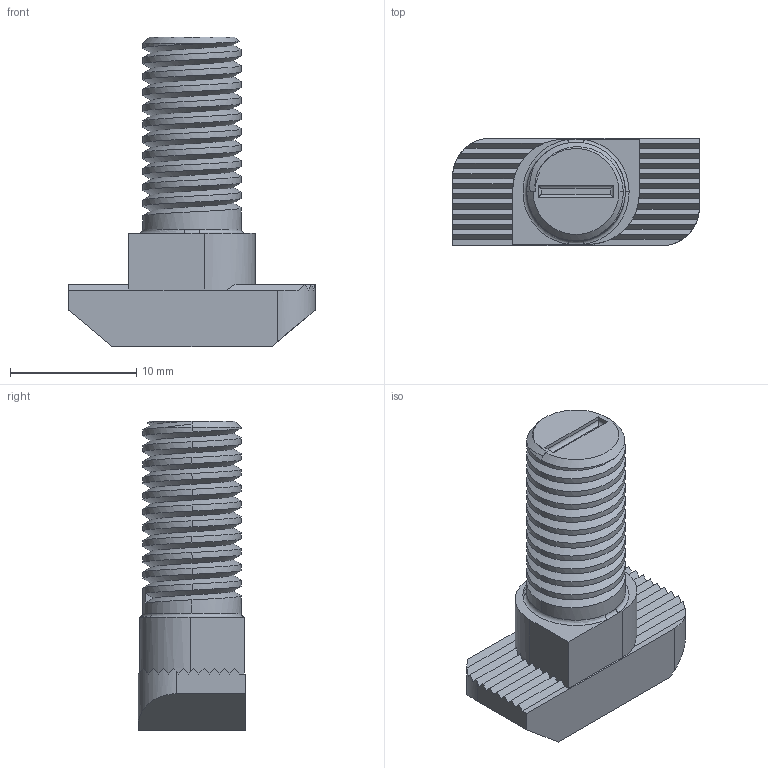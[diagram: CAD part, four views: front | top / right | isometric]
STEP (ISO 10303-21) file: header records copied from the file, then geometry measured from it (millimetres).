
FILE_DESCRIPTION (( 'STEP AP203' ), '1' );
FILE_NAME ('5030.STEP', '2016-01-21T10:24:34', ( '' ), ( '' ), 'SwSTEP 2.0', 'SolidWorks 2014', '' );
FILE_SCHEMA (( 'CONFIG_CONTROL_DESIGN' ));
Length unit declared in the file: millimetre
Products named in the file (1): 5030
Bounding box: 19.5 x 8.5 x 24.5 mm (x, y, z)
Volume: 1680.7 mm3; surface area: 1254.7 mm2
Topology: 1 solids, 1 shells, 102 faces, 284 edges, 185 vertices
Faces by surface type: plane 61, cylinder 31, bspline 4, torus 3, cone 3
Entity records: 4585 total; most frequent: CARTESIAN_POINT 2171, ORIENTED_EDGE 568, DIRECTION 406, EDGE_CURVE 284, VERTEX_POINT 185, VECTOR 168, LINE 168, AXIS2_PLACEMENT_3D 119
